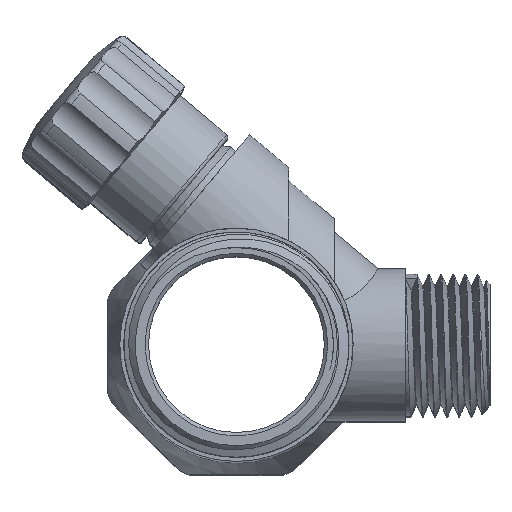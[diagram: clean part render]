
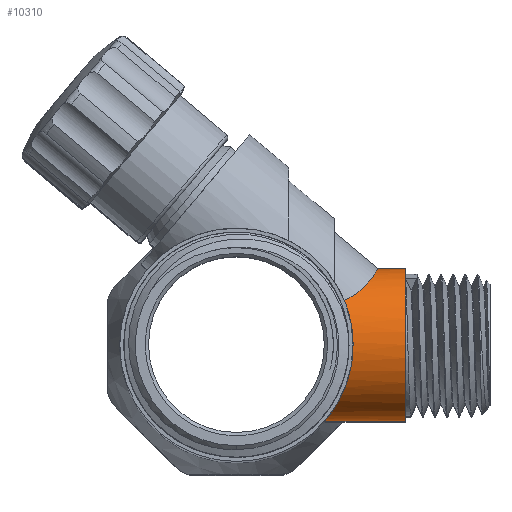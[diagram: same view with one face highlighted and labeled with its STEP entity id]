
A CAD part, top view. The second image highlights one B-rep face of the part: STEP entity #10310.
In plain terms, the highlighted cylindrical face has radius 11.25 mm (diameter 22.5 mm), a full revolution.
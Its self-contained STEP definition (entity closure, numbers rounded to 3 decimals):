
#626=CYLINDRICAL_SURFACE('',#11123,11.25);
#1091=FACE_OUTER_BOUND('',#1675,.T.);
#1675=EDGE_LOOP('',(#8767,#8768,#8769,#8770,#8771,#8772,#8773));
#2100=CIRCLE('',#11108,11.25);
#2101=CIRCLE('',#11109,11.25);
#2721=B_SPLINE_CURVE_WITH_KNOTS('',3,(#28692,#28693,#28694,#28695,#28696,
#28697,#28698,#28699,#28700,#28701,#28702,#28703,#28704,#28705,#28706,#28707,
#28708,#28709,#28710,#28711,#28712,#28713),.UNSPECIFIED.,.F.,.F.,(4,2,2,
2,2,2,2,2,2,2,4),(-2.704,-2.605,-2.431,
-2.258,-1.89,-1.523,-1.156,
-0.788,-0.615,-0.441,-0.342),
 .UNSPECIFIED.);
#2722=B_SPLINE_CURVE_WITH_KNOTS('',3,(#28817,#28818,#28819,#28820,#28821,
#28822,#28823,#28824,#28825,#28826,#28827,#28828,#28829,#28830,#28831,#28832,
#28833,#28834,#28835,#28836),.UNSPECIFIED.,.F.,.F.,(4,2,2,2,2,2,2,2,2,4),
(4.592,4.847,5.066,5.285,5.504,
5.723,6.161,6.604,6.825,7.046),
 .UNSPECIFIED.);
#2723=B_SPLINE_CURVE_WITH_KNOTS('',3,(#28837,#28838,#28839,#28840,#28841,
#28842,#28843,#28844,#28845,#28846,#28847,#28848,#28849,#28850,#28851,#28852,
#28853,#28854,#28855,#28856),.UNSPECIFIED.,.F.,.F.,(4,2,2,2,2,2,2,2,2,4),
(7.046,7.268,7.489,7.931,8.37,
8.589,8.808,9.027,9.246,9.501),
 .UNSPECIFIED.);
#3271=LINE('',#28816,#3842);
#3842=VECTOR('',#13193,11.25);
#4731=VERTEX_POINT('',#28678);
#4732=VERTEX_POINT('',#28685);
#4754=VERTEX_POINT('',#28786);
#4755=VERTEX_POINT('',#28787);
#4764=VERTEX_POINT('',#28815);
#6185=EDGE_CURVE('',#4731,#4732,#2721,.T.);
#6216=EDGE_CURVE('',#4754,#4755,#2100,.T.);
#6217=EDGE_CURVE('',#4755,#4754,#2101,.T.);
#6229=EDGE_CURVE('',#4755,#4764,#3271,.T.);
#6230=EDGE_CURVE('',#4731,#4764,#2722,.T.);
#6231=EDGE_CURVE('',#4764,#4732,#2723,.T.);
#8767=ORIENTED_EDGE('',*,*,#6216,.F.);
#8768=ORIENTED_EDGE('',*,*,#6217,.F.);
#8769=ORIENTED_EDGE('',*,*,#6229,.T.);
#8770=ORIENTED_EDGE('',*,*,#6230,.F.);
#8771=ORIENTED_EDGE('',*,*,#6185,.T.);
#8772=ORIENTED_EDGE('',*,*,#6231,.F.);
#8773=ORIENTED_EDGE('',*,*,#6229,.F.);
#10310=ADVANCED_FACE('',(#1091),#626,.T.);
#11108=AXIS2_PLACEMENT_3D('',#28788,#13158,#13159);
#11109=AXIS2_PLACEMENT_3D('',#28789,#13160,#13161);
#11123=AXIS2_PLACEMENT_3D('',#28814,#13191,#13192);
#13158=DIRECTION('center_axis',(1.,0.,0.));
#13159=DIRECTION('ref_axis',(0.,0.,-1.));
#13160=DIRECTION('center_axis',(1.,0.,0.));
#13161=DIRECTION('ref_axis',(0.,0.,-1.));
#13191=DIRECTION('center_axis',(1.,0.,0.));
#13192=DIRECTION('ref_axis',(0.,1.,0.));
#13193=DIRECTION('',(-1.,0.,0.));
#28678=CARTESIAN_POINT('',(15.935,6.606,42.394));
#28685=CARTESIAN_POINT('',(15.935,6.606,60.606));
#28692=CARTESIAN_POINT('Ctrl Pts',(15.935,6.606,42.394));
#28693=CARTESIAN_POINT('Ctrl Pts',(16.25,6.727,42.482));
#28694=CARTESIAN_POINT('Ctrl Pts',(16.547,6.866,42.586));
#28695=CARTESIAN_POINT('Ctrl Pts',(17.295,7.271,42.909));
#28696=CARTESIAN_POINT('Ctrl Pts',(17.761,7.594,43.186));
#28697=CARTESIAN_POINT('Ctrl Pts',(18.574,8.271,43.859));
#28698=CARTESIAN_POINT('Ctrl Pts',(18.924,8.622,44.255));
#28699=CARTESIAN_POINT('Ctrl Pts',(19.802,9.58,45.505));
#28700=CARTESIAN_POINT('Ctrl Pts',(20.251,10.199,46.588));
#28701=CARTESIAN_POINT('Ctrl Pts',(20.834,11.035,48.973));
#28702=CARTESIAN_POINT('Ctrl Pts',(20.968,11.25,50.275));
#28703=CARTESIAN_POINT('Ctrl Pts',(20.968,11.25,52.725));
#28704=CARTESIAN_POINT('Ctrl Pts',(20.834,11.035,54.027));
#28705=CARTESIAN_POINT('Ctrl Pts',(20.251,10.199,56.412));
#28706=CARTESIAN_POINT('Ctrl Pts',(19.802,9.58,57.495));
#28707=CARTESIAN_POINT('Ctrl Pts',(18.924,8.622,58.745));
#28708=CARTESIAN_POINT('Ctrl Pts',(18.574,8.271,59.141));
#28709=CARTESIAN_POINT('Ctrl Pts',(17.761,7.594,59.814));
#28710=CARTESIAN_POINT('Ctrl Pts',(17.295,7.271,60.091));
#28711=CARTESIAN_POINT('Ctrl Pts',(16.547,6.866,60.414));
#28712=CARTESIAN_POINT('Ctrl Pts',(16.25,6.727,60.518));
#28713=CARTESIAN_POINT('Ctrl Pts',(15.935,6.606,60.606));
#28786=CARTESIAN_POINT('',(25.,11.25,51.5));
#28787=CARTESIAN_POINT('',(25.,-11.25,51.5));
#28788=CARTESIAN_POINT('Origin',(25.,0.,51.5));
#28789=CARTESIAN_POINT('Origin',(25.,0.,51.5));
#28814=CARTESIAN_POINT('Origin',(12.5,0.,51.5));
#28815=CARTESIAN_POINT('',(13.077,-11.25,51.5));
#28816=CARTESIAN_POINT('',(12.5,-11.25,51.5));
#28817=CARTESIAN_POINT('Ctrl Pts',(15.935,6.606,42.394));
#28818=CARTESIAN_POINT('Ctrl Pts',(16.217,5.927,41.901));
#28819=CARTESIAN_POINT('Ctrl Pts',(16.477,5.172,41.471));
#28820=CARTESIAN_POINT('Ctrl Pts',(16.868,3.679,40.842));
#28821=CARTESIAN_POINT('Ctrl Pts',(17.012,2.953,40.619));
#28822=CARTESIAN_POINT('Ctrl Pts',(17.203,1.479,40.322));
#28823=CARTESIAN_POINT('Ctrl Pts',(17.25,0.73,40.25));
#28824=CARTESIAN_POINT('Ctrl Pts',(17.25,-0.73,
40.25));
#28825=CARTESIAN_POINT('Ctrl Pts',(17.203,-1.479,40.322));
#28826=CARTESIAN_POINT('Ctrl Pts',(17.012,-2.953,40.619));
#28827=CARTESIAN_POINT('Ctrl Pts',(16.868,-3.679,40.842));
#28828=CARTESIAN_POINT('Ctrl Pts',(16.326,-5.75,41.715));
#28829=CARTESIAN_POINT('Ctrl Pts',(15.81,-6.985,42.576));
#28830=CARTESIAN_POINT('Ctrl Pts',(14.797,-8.934,44.524));
#28831=CARTESIAN_POINT('Ctrl Pts',(14.223,-9.788,45.757));
#28832=CARTESIAN_POINT('Ctrl Pts',(13.57,-10.656,47.818));
#28833=CARTESIAN_POINT('Ctrl Pts',(13.388,-10.88,48.54));
#28834=CARTESIAN_POINT('Ctrl Pts',(13.141,-11.176,50.012));
#28835=CARTESIAN_POINT('Ctrl Pts',(13.077,-11.25,50.762));
#28836=CARTESIAN_POINT('Ctrl Pts',(13.077,-11.25,51.5));
#28837=CARTESIAN_POINT('Ctrl Pts',(13.077,-11.25,51.5));
#28838=CARTESIAN_POINT('Ctrl Pts',(13.077,-11.25,52.238));
#28839=CARTESIAN_POINT('Ctrl Pts',(13.141,-11.176,52.988));
#28840=CARTESIAN_POINT('Ctrl Pts',(13.388,-10.88,54.46));
#28841=CARTESIAN_POINT('Ctrl Pts',(13.57,-10.656,55.182));
#28842=CARTESIAN_POINT('Ctrl Pts',(14.223,-9.788,57.243));
#28843=CARTESIAN_POINT('Ctrl Pts',(14.797,-8.934,58.476));
#28844=CARTESIAN_POINT('Ctrl Pts',(15.81,-6.985,60.424));
#28845=CARTESIAN_POINT('Ctrl Pts',(16.326,-5.75,61.285));
#28846=CARTESIAN_POINT('Ctrl Pts',(16.868,-3.679,62.158));
#28847=CARTESIAN_POINT('Ctrl Pts',(17.012,-2.953,62.381));
#28848=CARTESIAN_POINT('Ctrl Pts',(17.203,-1.479,62.678));
#28849=CARTESIAN_POINT('Ctrl Pts',(17.25,-0.73,62.75));
#28850=CARTESIAN_POINT('Ctrl Pts',(17.25,0.73,62.75));
#28851=CARTESIAN_POINT('Ctrl Pts',(17.203,1.479,62.678));
#28852=CARTESIAN_POINT('Ctrl Pts',(17.012,2.953,62.381));
#28853=CARTESIAN_POINT('Ctrl Pts',(16.868,3.679,62.158));
#28854=CARTESIAN_POINT('Ctrl Pts',(16.477,5.172,61.529));
#28855=CARTESIAN_POINT('Ctrl Pts',(16.217,5.927,61.099));
#28856=CARTESIAN_POINT('Ctrl Pts',(15.935,6.606,60.606));
